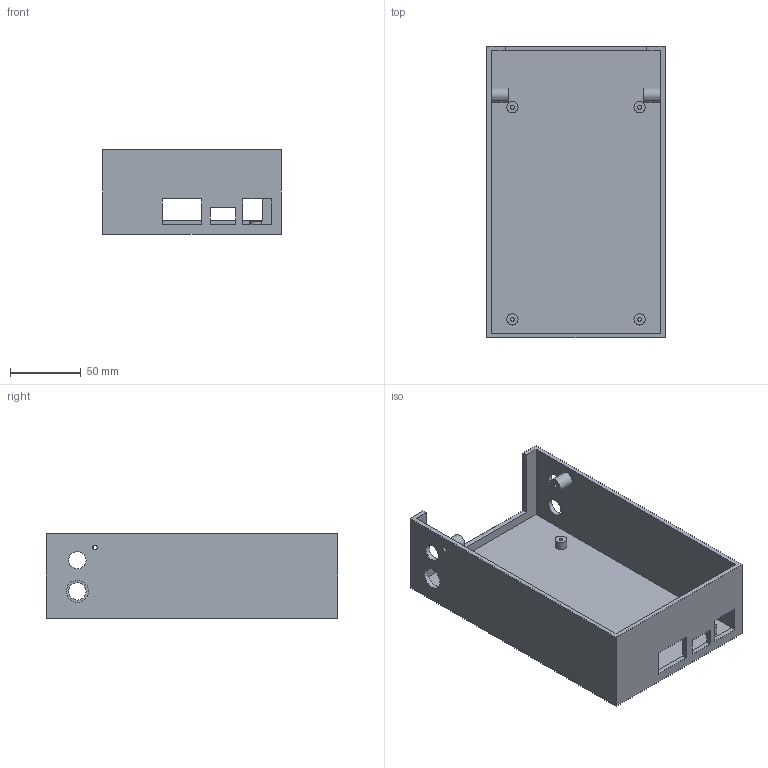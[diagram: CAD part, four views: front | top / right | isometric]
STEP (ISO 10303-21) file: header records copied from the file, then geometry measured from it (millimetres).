
FILE_DESCRIPTION(('Open CASCADE Model'),'2;1');
FILE_NAME('Open CASCADE Shape Model','2026-07-27T09:36:00',('Author'),( 'Open CASCADE'),'Open CASCADE STEP processor 7.9','Open CASCADE 7.9' ,'Unknown');
FILE_SCHEMA(('AUTOMOTIVE_DESIGN { 1 0 10303 214 1 1 1 1 }'));
Length unit declared in the file: millimetre
Products named in the file (1): Open CASCADE STEP translator 7.9 1
Bounding box: 126 x 206 x 59.8 mm (x, y, z)
Volume: 182591.8 mm3; surface area: 117964.9 mm2
Topology: 1 solids, 1 shells, 56 faces, 126 edges, 84 vertices
Faces by surface type: plane 38, cylinder 18
Full cylindrical faces by diameter (mm): 2.8 x6, 3.4 x2, 8 x4, 10 x2, 12.2 x3, 15.6 x1
Entity records: 3221 total; most frequent: CARTESIAN_POINT 647, DIRECTION 455, ORIENTED_EDGE 252, PCURVE 252, DEFINITIONAL_REPRESENTATION 252, LINE 244, VECTOR 244, EDGE_CURVE 126
